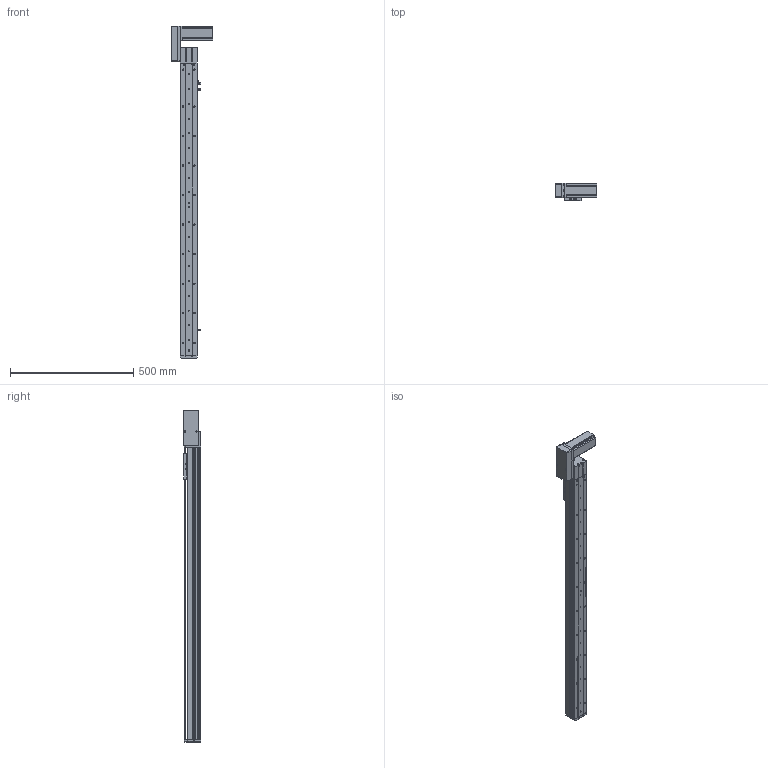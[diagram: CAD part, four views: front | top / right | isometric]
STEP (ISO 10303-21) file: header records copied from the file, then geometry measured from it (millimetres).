
FILE_DESCRIPTION (( 'STEP AP214' ), '1' );
FILE_NAME ('KSD68BS-S1000-MRB-CM.STEP', '2019-08-22T06:05:37', ( '微软用户' ), ( '微软中国' ), 'SwSTEP 2.0', 'SolidWorks 2014', '' );
FILE_SCHEMA (( 'AUTOMOTIVE_DESIGN' ));
Length unit declared in the file: millimetre
Products named in the file (11): 悵誘欶奻狟殏; 68宽马达安装板连板上折同步带; 68宽单导轨半封闭同步带主动轮座右; 68单导轨同步带半封闭端板; KSD68BS 1000俴最裔啣圉猾敕; 覜茼え68遵圉猾敕; KSD68BS半封闭同步带传动导轨座; U倰嫖萇EEㄜSX672; 台达ECMA－C20604AS伺服电机（400W); KSD68BS 1000俴最菁啣圉猾敕; KSD68BS-S1000-MRB-CM
Assembly tree (12 placements, depth 2):
  KSD68BS-S1000-MRB-CM
    KSD68BS 1000俴最菁啣圉猾敕
    台达ECMA－C20604AS伺服电机（400W)
    U倰嫖萇EEㄜSX672  x3
    KSD68BS半封闭同步带传动导轨座
    覜茼え68遵圉猾敕
    KSD68BS 1000俴最裔啣圉猾敕
    68单导轨同步带半封闭端板
    68宽单导轨半封闭同步带主动轮座右
    68宽马达安装板连板上折同步带
    悵誘欶奻狟殏
Bounding box: 167.2 x 70.5 x 1349.5 mm (x, y, z)
Volume: 2371033.5 mm3; surface area: 836771.9 mm2
Topology: 13 solids, 13 shells, 1446 faces, 4170 edges, 2714 vertices
Faces by surface type: cylinder 708, plane 655, cone 83
Entity records: 54017 total; most frequent: CARTESIAN_POINT 10266, ORIENTED_EDGE 7092, DIRECTION 7032, EDGE_CURVE 3546, AXIS2_PLACEMENT_3D 2544, VERTEX_POINT 2338, VECTOR 1944, LINE 1944
